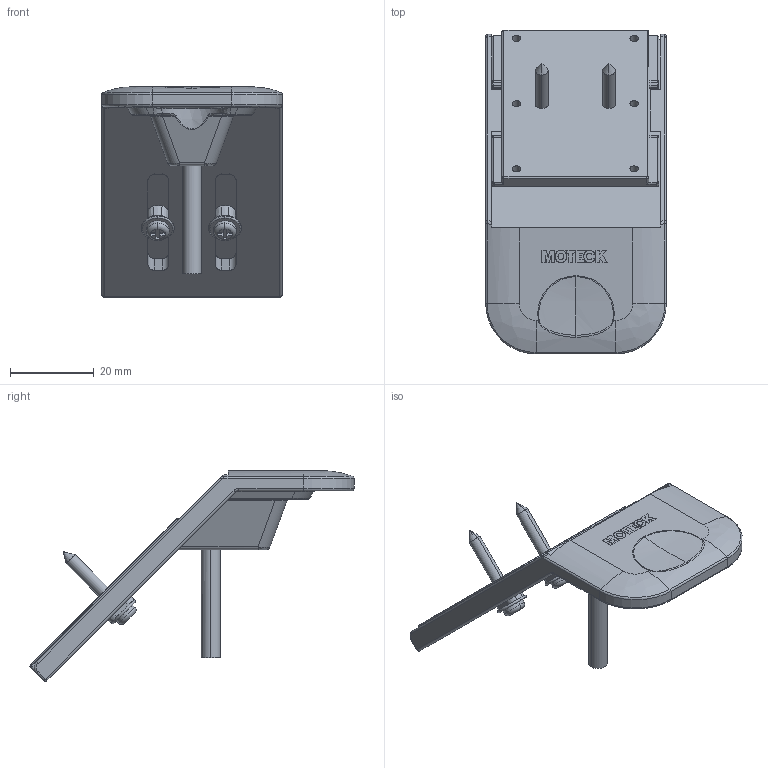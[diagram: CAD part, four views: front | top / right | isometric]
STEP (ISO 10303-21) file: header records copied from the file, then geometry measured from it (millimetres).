
FILE_DESCRIPTION((''),'2;1');
FILE_NAME('11_ASM','2020-01-15T',('USER'),(''),'PRO/ENGINEER BY PARAMETRIC TECHNOLOGY CORPORATION, 2016240','PRO/ENGINEER BY PARAMETRIC TECHNOLOGY CORPORATION, 2016240','');
FILE_SCHEMA(('CONFIG_CONTROL_DESIGN'));
Length unit declared in the file: millimetre
Products named in the file (1): 11_ASM
Bounding box: 43 x 77.18 x 50.24 mm (x, y, z)
Volume: 17031.2 mm3; surface area: 18376.7 mm2
Topology: 1 solids, 1 shells, 568 faces, 1494 edges, 930 vertices
Faces by surface type: plane 249, cylinder 169, bspline 63, torus 49, cone 24, sphere 8, extrusion 6
Entity records: 20302 total; most frequent: CARTESIAN_POINT 6630, ORIENTED_EDGE 2972, DIRECTION 2714, EDGE_CURVE 1486, AXIS2_PLACEMENT_3D 955, VERTEX_POINT 930, VECTOR 804, LINE 798
